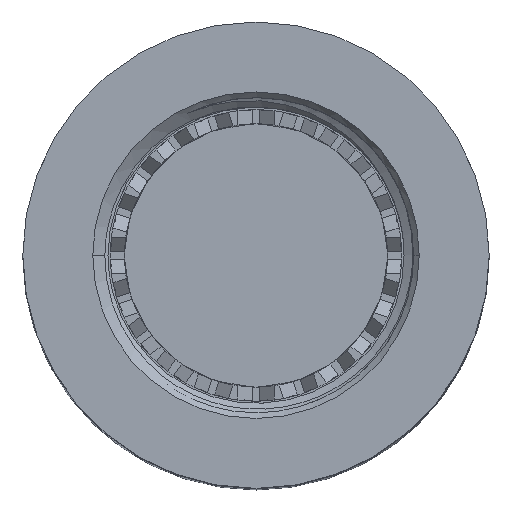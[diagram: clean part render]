
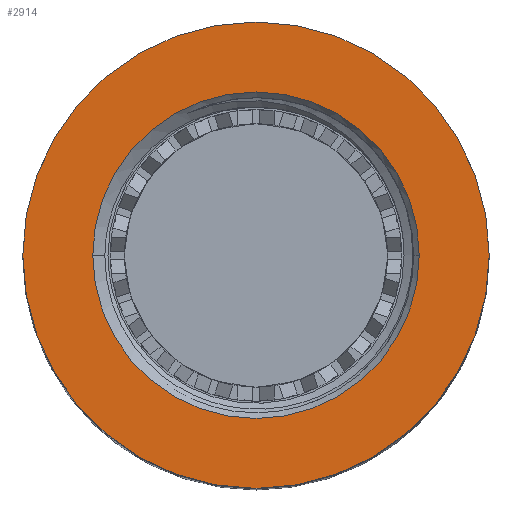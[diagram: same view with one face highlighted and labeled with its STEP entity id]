
A CAD part, top view. The second image highlights one B-rep face of the part: STEP entity #2914.
In plain terms, the highlighted planar face has unit normal (0, 0, 1).
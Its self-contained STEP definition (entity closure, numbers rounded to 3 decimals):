
#134 = ORIENTED_EDGE ( 'NONE', *, *, #5543, .T. ) ;
#295 = CARTESIAN_POINT ( 'NONE',  ( -13.208, 0., 5.664 ) ) ;
#526 = DIRECTION ( 'NONE',  ( 0., 0., -1. ) ) ;
#740 = ORIENTED_EDGE ( 'NONE', *, *, #2665, .F. ) ;
#771 = EDGE_LOOP ( 'NONE', ( #889, #134 ) ) ;
#805 = EDGE_CURVE ( 'NONE', #4973, #5893, #1775, .T. ) ;
#848 = ORIENTED_EDGE ( 'NONE', *, *, #5639, .F. ) ;
#889 = ORIENTED_EDGE ( 'NONE', *, *, #805, .T. ) ;
#976 = CARTESIAN_POINT ( 'NONE',  ( 0., 0., 5.664 ) ) ;
#1023 = DIRECTION ( 'NONE',  ( -1., 0., 0. ) ) ;
#1747 = AXIS2_PLACEMENT_3D ( 'NONE', #976, #1938, #6041 ) ;
#1775 = CIRCLE ( 'NONE', #5547, 9.246 ) ;
#1901 = DIRECTION ( 'NONE',  ( 1., 0., 0. ) ) ;
#1938 = DIRECTION ( 'NONE',  ( 0., 0., -1. ) ) ;
#2010 = CARTESIAN_POINT ( 'NONE',  ( 0., 0., 5.664 ) ) ;
#2402 = CARTESIAN_POINT ( 'NONE',  ( 9.246, 0., 5.664 ) ) ;
#2456 = CIRCLE ( 'NONE', #5286, 13.208 ) ;
#2529 = FACE_OUTER_BOUND ( 'NONE', #3373, .T. ) ;
#2665 = EDGE_CURVE ( 'NONE', #5082, #6300, #2456, .T. ) ;
#2709 = AXIS2_PLACEMENT_3D ( 'NONE', #2010, #4089, #6104 ) ;
#2914 = ADVANCED_FACE ( 'NONE', ( #5173, #2529 ), #3029, .T. ) ;
#2944 = CARTESIAN_POINT ( 'NONE',  ( 0., 0., 5.664 ) ) ;
#2964 = DIRECTION ( 'NONE',  ( 0., 0., 1. ) ) ;
#2980 = CARTESIAN_POINT ( 'NONE',  ( -9.246, 0., 5.664 ) ) ;
#3029 = PLANE ( 'NONE',  #5708 ) ;
#3373 = EDGE_LOOP ( 'NONE', ( #740, #848 ) ) ;
#4089 = DIRECTION ( 'NONE',  ( 0., 0., -1. ) ) ;
#4625 = DIRECTION ( 'NONE',  ( 1., 0., 0. ) ) ;
#4650 = CARTESIAN_POINT ( 'NONE',  ( 13.208, 0., 5.664 ) ) ;
#4973 = VERTEX_POINT ( 'NONE', #2402 ) ;
#4984 = CIRCLE ( 'NONE', #1747, 9.246 ) ;
#5082 = VERTEX_POINT ( 'NONE', #4650 ) ;
#5173 = FACE_BOUND ( 'NONE', #771, .T. ) ;
#5286 = AXIS2_PLACEMENT_3D ( 'NONE', #6110, #526, #4625 ) ;
#5543 = EDGE_CURVE ( 'NONE', #5893, #4973, #4984, .T. ) ;
#5547 = AXIS2_PLACEMENT_3D ( 'NONE', #2944, #6065, #1901 ) ;
#5620 = CIRCLE ( 'NONE', #2709, 13.208 ) ;
#5639 = EDGE_CURVE ( 'NONE', #6300, #5082, #5620, .T. ) ;
#5680 = CARTESIAN_POINT ( 'NONE',  ( 13.208, 0., 5.664 ) ) ;
#5708 = AXIS2_PLACEMENT_3D ( 'NONE', #5680, #2964, #1023 ) ;
#5893 = VERTEX_POINT ( 'NONE', #2980 ) ;
#6041 = DIRECTION ( 'NONE',  ( 1., 0., 0. ) ) ;
#6065 = DIRECTION ( 'NONE',  ( 0., 0., -1. ) ) ;
#6104 = DIRECTION ( 'NONE',  ( 1., 0., 0. ) ) ;
#6110 = CARTESIAN_POINT ( 'NONE',  ( 0., 0., 5.664 ) ) ;
#6300 = VERTEX_POINT ( 'NONE', #295 ) ;
